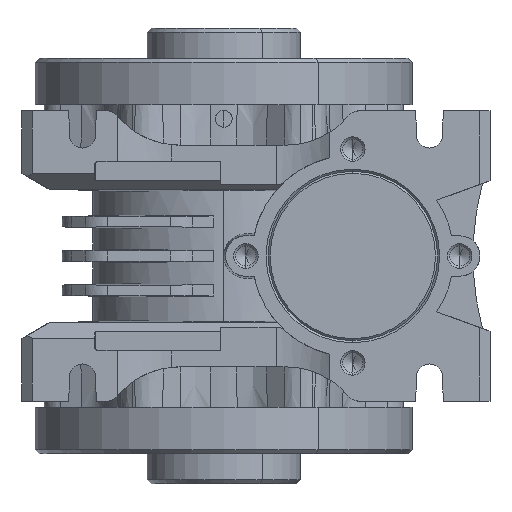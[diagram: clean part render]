
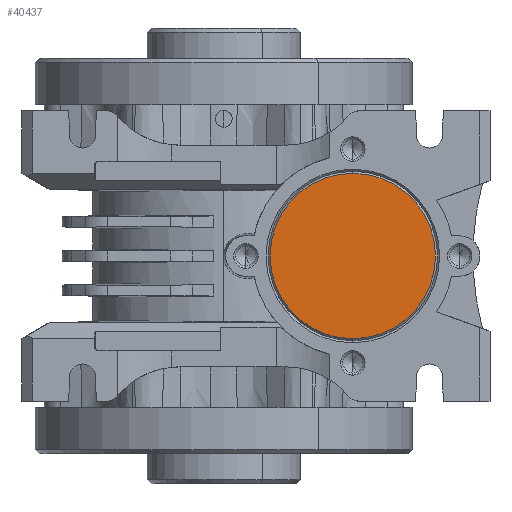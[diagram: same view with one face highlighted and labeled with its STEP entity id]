
A CAD part, left-side view. The second image highlights one B-rep face of the part: STEP entity #40437.
In plain terms, the highlighted planar face has unit normal (-1, 0, 0).
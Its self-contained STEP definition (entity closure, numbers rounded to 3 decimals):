
#659 = DIRECTION ( 'NONE',  ( -1., 0., 0. ) ) ;
#4380 = DIRECTION ( 'NONE',  ( -1., 0., 0. ) ) ;
#9848 = DIRECTION ( 'NONE',  ( 1., 0., 0. ) ) ;
#15390 = AXIS2_PLACEMENT_3D ( 'NONE', #50791, #4380, #68076 ) ;
#16322 = ORIENTED_EDGE ( 'NONE', *, *, #24574, .T. ) ;
#20941 = FACE_OUTER_BOUND ( 'NONE', #43500, .T. ) ;
#24574 = EDGE_CURVE ( 'NONE', #24711, #31002, #67251, .T. ) ;
#24711 = VERTEX_POINT ( 'NONE', #60515 ) ;
#24740 = EDGE_CURVE ( 'NONE', #31002, #24711, #28620, .T. ) ;
#28620 = CIRCLE ( 'NONE', #15390, 20.5 ) ;
#31002 = VERTEX_POINT ( 'NONE', #59526 ) ;
#37396 = AXIS2_PLACEMENT_3D ( 'NONE', #42870, #659, #64665 ) ;
#40437 = ADVANCED_FACE ( 'NONE', ( #20941 ), #57269, .F. ) ;
#42870 = CARTESIAN_POINT ( 'NONE',  ( -50., -32., 0. ) ) ;
#43500 = EDGE_LOOP ( 'NONE', ( #58598, #16322 ) ) ;
#45859 = DIRECTION ( 'NONE',  ( 0., 0., -1. ) ) ;
#50791 = CARTESIAN_POINT ( 'NONE',  ( -50., -32., 0. ) ) ;
#51048 = CARTESIAN_POINT ( 'NONE',  ( -50., -32., 0. ) ) ;
#51192 = AXIS2_PLACEMENT_3D ( 'NONE', #51048, #9848, #45859 ) ;
#57269 = PLANE ( 'NONE',  #51192 ) ;
#58598 = ORIENTED_EDGE ( 'NONE', *, *, #24740, .T. ) ;
#59526 = CARTESIAN_POINT ( 'NONE',  ( -50., -32., -20.5 ) ) ;
#60515 = CARTESIAN_POINT ( 'NONE',  ( -50., -32., 20.5 ) ) ;
#64665 = DIRECTION ( 'NONE',  ( 0., 0., -1. ) ) ;
#67251 = CIRCLE ( 'NONE', #37396, 20.5 ) ;
#68076 = DIRECTION ( 'NONE',  ( 0., 0., -1. ) ) ;
